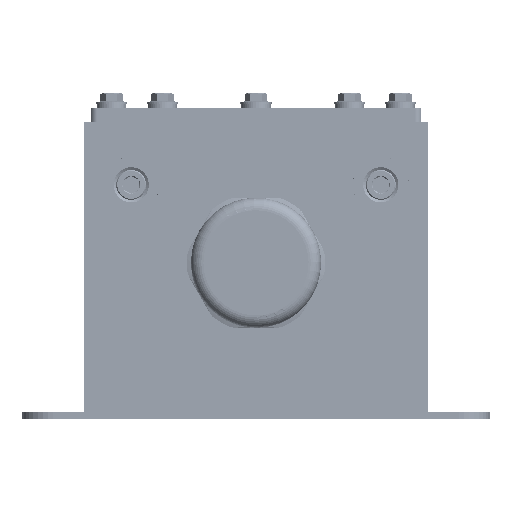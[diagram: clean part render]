
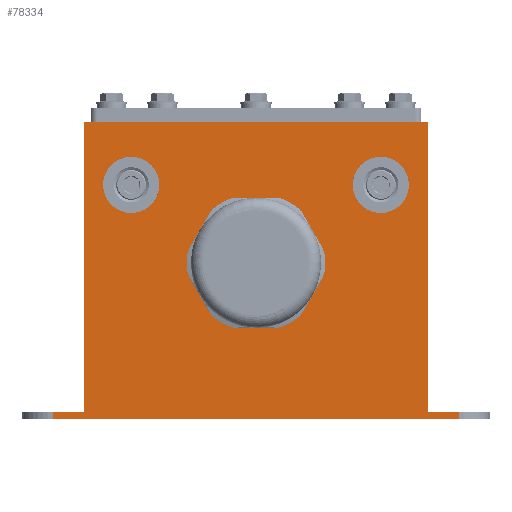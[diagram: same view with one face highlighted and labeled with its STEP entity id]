
A CAD part, front view. The second image highlights one B-rep face of the part: STEP entity #78334.
In plain terms, the highlighted planar face has unit normal (0, -1, 0) as drawn and (-1, 0, 0) by its records, which use the part's own axes.
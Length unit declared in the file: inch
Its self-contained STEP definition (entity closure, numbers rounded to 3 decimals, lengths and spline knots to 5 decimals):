
#30 = DIRECTION ( 'NONE',  ( 0., 0., 1. ) ) ;
#91 = LINE ( 'NONE', #173909, #26780 ) ;
#2525 = EDGE_CURVE ( 'NONE', #163579, #104123, #178548, .T. ) ;
#2789 = ORIENTED_EDGE ( 'NONE', *, *, #22418, .F. ) ;
#5049 = CARTESIAN_POINT ( 'NONE',  ( -8.5, 4.75, -2.75 ) ) ;
#5599 = EDGE_CURVE ( 'NONE', #141236, #141236, #159058, .T. ) ;
#14050 = EDGE_CURVE ( 'NONE', #111144, #104123, #107475, .T. ) ;
#14941 = DIRECTION ( 'NONE',  ( 0., 0., 1. ) ) ;
#19970 = VECTOR ( 'NONE', #144857, 39.37008 ) ;
#20134 = AXIS2_PLACEMENT_3D ( 'NONE', #165955, #21427, #120614 ) ;
#20285 = EDGE_CURVE ( 'NONE', #165492, #23458, #57470, .T. ) ;
#21427 = DIRECTION ( 'NONE',  ( -1., 0., 0. ) ) ;
#22418 = EDGE_CURVE ( 'NONE', #41090, #41090, #110191, .T. ) ;
#22449 = DIRECTION ( 'NONE',  ( 0., 0., 1. ) ) ;
#23458 = VERTEX_POINT ( 'NONE', #157664 ) ;
#25485 = DIRECTION ( 'NONE',  ( 0., -1., 0. ) ) ;
#26780 = VECTOR ( 'NONE', #45406, 39.37008 ) ;
#31169 = CARTESIAN_POINT ( 'NONE',  ( -8.5, 0., 2.75 ) ) ;
#32034 = PLANE ( 'NONE',  #160120 ) ;
#34797 = AXIS2_PLACEMENT_3D ( 'NONE', #62178, #35681, #163226 ) ;
#35681 = DIRECTION ( 'NONE',  ( -1., 0., 0. ) ) ;
#40598 = EDGE_CURVE ( 'NONE', #156034, #158468, #69951, .T. ) ;
#41090 = VERTEX_POINT ( 'NONE', #61754 ) ;
#44882 = ORIENTED_EDGE ( 'NONE', *, *, #118420, .F. ) ;
#45406 = DIRECTION ( 'NONE',  ( 0., -1., 0. ) ) ;
#46765 = ORIENTED_EDGE ( 'NONE', *, *, #87489, .T. ) ;
#48316 = CARTESIAN_POINT ( 'NONE',  ( -8.5, 0., 3.25 ) ) ;
#48834 = ORIENTED_EDGE ( 'NONE', *, *, #50936, .F. ) ;
#50074 = CARTESIAN_POINT ( 'NONE',  ( -8.5, 4.75, -2.75 ) ) ;
#50936 = EDGE_CURVE ( 'NONE', #163579, #104839, #151895, .T. ) ;
#51439 = VECTOR ( 'NONE', #22449, 39.37008 ) ;
#57470 = LINE ( 'NONE', #86713, #88600 ) ;
#58812 = EDGE_LOOP ( 'NONE', ( #152028, #141752, #67138, #175400, #48834, #121773, #125739, #46765 ) ) ;
#59430 = FACE_BOUND ( 'NONE', #144795, .T. ) ;
#61754 = CARTESIAN_POINT ( 'NONE',  ( -8.5, 3.75, 2.375 ) ) ;
#62178 = CARTESIAN_POINT ( 'NONE',  ( -8.5, 3.75, 2. ) ) ;
#64411 = VECTOR ( 'NONE', #25485, 39.37008 ) ;
#65260 = CARTESIAN_POINT ( 'NONE',  ( -8.5, 0.105, 2.75 ) ) ;
#67138 = ORIENTED_EDGE ( 'NONE', *, *, #20285, .F. ) ;
#67561 = CARTESIAN_POINT ( 'NONE',  ( -8.5, 2.5, 0.94488 ) ) ;
#68955 = CARTESIAN_POINT ( 'NONE',  ( -8.5, 4.75, 2.75 ) ) ;
#69951 = LINE ( 'NONE', #31169, #156150 ) ;
#71711 = LINE ( 'NONE', #68955, #64411 ) ;
#74532 = DIRECTION ( 'NONE',  ( 1., 0., 0. ) ) ;
#78334 = ADVANCED_FACE ( 'NONE', ( #59430, #87739, #175633, #176576 ), #32034, .F. ) ;
#86713 = CARTESIAN_POINT ( 'NONE',  ( -8.5, 0.105, 2.75 ) ) ;
#87489 = EDGE_CURVE ( 'NONE', #111144, #156034, #143952, .T. ) ;
#87739 = FACE_BOUND ( 'NONE', #162402, .T. ) ;
#88600 = VECTOR ( 'NONE', #14941, 39.37008 ) ;
#97186 = VECTOR ( 'NONE', #137729, 39.37008 ) ;
#102571 = EDGE_CURVE ( 'NONE', #104839, #165492, #71711, .T. ) ;
#104123 = VERTEX_POINT ( 'NONE', #185702 ) ;
#104281 = CIRCLE ( 'NONE', #149464, 0.375 ) ;
#104839 = VERTEX_POINT ( 'NONE', #118296 ) ;
#107475 = LINE ( 'NONE', #108416, #51439 ) ;
#108416 = CARTESIAN_POINT ( 'NONE',  ( -8.5, 0.105, -2.75 ) ) ;
#110191 = CIRCLE ( 'NONE', #34797, 0.375 ) ;
#111144 = VERTEX_POINT ( 'NONE', #125880 ) ;
#116331 = VERTEX_POINT ( 'NONE', #174002 ) ;
#118296 = CARTESIAN_POINT ( 'NONE',  ( -8.5, 4.75, 2.75 ) ) ;
#118420 = EDGE_CURVE ( 'NONE', #116331, #116331, #104281, .T. ) ;
#120614 = DIRECTION ( 'NONE',  ( 0., 0., 1. ) ) ;
#121773 = ORIENTED_EDGE ( 'NONE', *, *, #2525, .T. ) ;
#125739 = ORIENTED_EDGE ( 'NONE', *, *, #14050, .F. ) ;
#125880 = CARTESIAN_POINT ( 'NONE',  ( -8.5, 0.105, -3.25 ) ) ;
#131557 = VECTOR ( 'NONE', #135090, 39.37008 ) ;
#135090 = DIRECTION ( 'NONE',  ( 0., -1., 0. ) ) ;
#137027 = DIRECTION ( 'NONE',  ( -1., 0., 0. ) ) ;
#137729 = DIRECTION ( 'NONE',  ( 0., 0., 1. ) ) ;
#138897 = CARTESIAN_POINT ( 'NONE',  ( -8.5, 3.75, -2. ) ) ;
#141236 = VERTEX_POINT ( 'NONE', #67561 ) ;
#141504 = CARTESIAN_POINT ( 'NONE',  ( -8.5, 0., -3.25 ) ) ;
#141752 = ORIENTED_EDGE ( 'NONE', *, *, #179534, .F. ) ;
#143952 = LINE ( 'NONE', #170434, #19970 ) ;
#144795 = EDGE_LOOP ( 'NONE', ( #2789 ) ) ;
#144857 = DIRECTION ( 'NONE',  ( 0., -1., 0. ) ) ;
#145390 = CARTESIAN_POINT ( 'NONE',  ( -8.5, 4.75, 2.75 ) ) ;
#147278 = DIRECTION ( 'NONE',  ( 0., 0., -1. ) ) ;
#149464 = AXIS2_PLACEMENT_3D ( 'NONE', #138897, #137027, #182351 ) ;
#151895 = LINE ( 'NONE', #165136, #97186 ) ;
#152028 = ORIENTED_EDGE ( 'NONE', *, *, #40598, .T. ) ;
#153181 = ORIENTED_EDGE ( 'NONE', *, *, #5599, .F. ) ;
#156034 = VERTEX_POINT ( 'NONE', #141504 ) ;
#156150 = VECTOR ( 'NONE', #30, 39.37008 ) ;
#157664 = CARTESIAN_POINT ( 'NONE',  ( -8.5, 0.105, 3.25 ) ) ;
#158468 = VERTEX_POINT ( 'NONE', #48316 ) ;
#159058 = CIRCLE ( 'NONE', #20134, 0.94488 ) ;
#160120 = AXIS2_PLACEMENT_3D ( 'NONE', #145390, #74532, #147278 ) ;
#162402 = EDGE_LOOP ( 'NONE', ( #44882 ) ) ;
#163226 = DIRECTION ( 'NONE',  ( 0., 0., 1. ) ) ;
#163420 = EDGE_LOOP ( 'NONE', ( #153181 ) ) ;
#163579 = VERTEX_POINT ( 'NONE', #5049 ) ;
#165136 = CARTESIAN_POINT ( 'NONE',  ( -8.5, 4.75, 2.75 ) ) ;
#165492 = VERTEX_POINT ( 'NONE', #65260 ) ;
#165955 = CARTESIAN_POINT ( 'NONE',  ( -8.5, 2.5, 0. ) ) ;
#170434 = CARTESIAN_POINT ( 'NONE',  ( -8.5, 1.51921, -3.25 ) ) ;
#173909 = CARTESIAN_POINT ( 'NONE',  ( -8.5, 1.51921, 3.25 ) ) ;
#174002 = CARTESIAN_POINT ( 'NONE',  ( -8.5, 3.75, -1.625 ) ) ;
#175400 = ORIENTED_EDGE ( 'NONE', *, *, #102571, .F. ) ;
#175633 = FACE_BOUND ( 'NONE', #163420, .T. ) ;
#176576 = FACE_OUTER_BOUND ( 'NONE', #58812, .T. ) ;
#178548 = LINE ( 'NONE', #50074, #131557 ) ;
#179534 = EDGE_CURVE ( 'NONE', #23458, #158468, #91, .T. ) ;
#182351 = DIRECTION ( 'NONE',  ( 0., 0., 1. ) ) ;
#185702 = CARTESIAN_POINT ( 'NONE',  ( -8.5, 0.105, -2.75 ) ) ;
